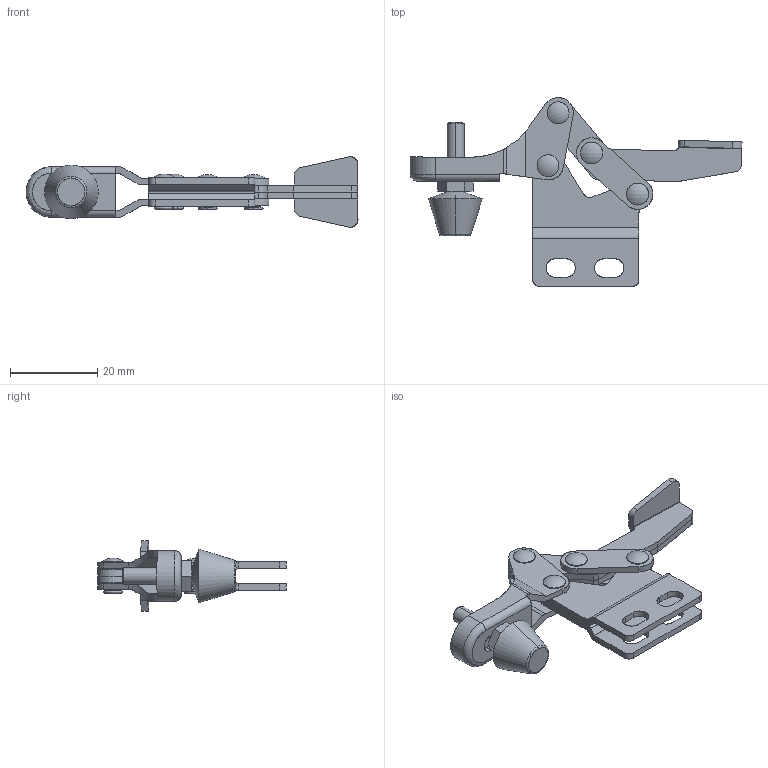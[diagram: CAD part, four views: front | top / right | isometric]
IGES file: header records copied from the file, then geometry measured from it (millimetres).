
Start section: SolidWorks IGES file using analytic representation for surfaces
Global section: file name: \\BARTOP_SV6\share\SOLIDWORKS\工具事業部\坂入用\受け渡し\2015.07.02\ISK-08S0.IGS; native system: SolidWorks 2015; preprocessor: SolidWorks 2015; author: SOLID02; date: 150707.101533; units: millimetre
Bounding box: 75.93 x 43.19 x 16.14 mm (x, y, z)
Surface area: 8914.5 mm2 (no closed solid volume)
Topology: 0 solids, 0 shells, 340 faces, 4632 edges, 4607 vertices
Faces by surface type: revolution 182, bspline 158
